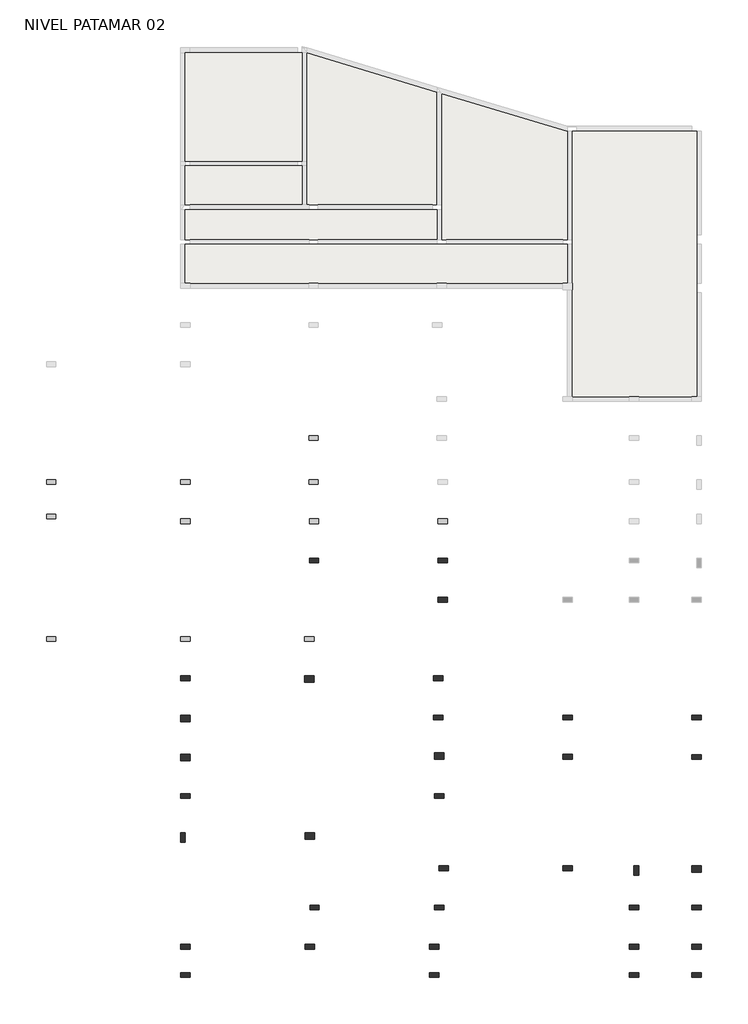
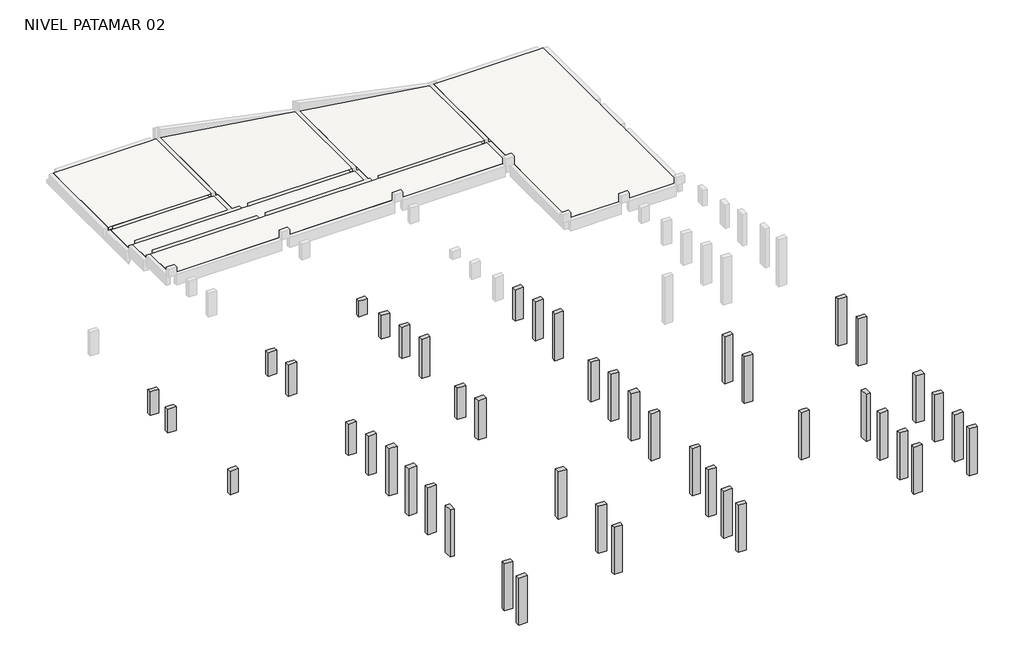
# One storey, part 1 of 2: 46 columns, 7 slabs.
"""IFC4 building model written with IfcOpenShell, lengths in millimetres."""

from ifc_helpers import new_model, si_unit, origin, place, context, project, spatial, faceted_brep, transform, mapped, element, save
from components import tqs_pilar_retangular_15_0x30_0_16e8f05b, tqs_pilar_retangular_20_0x30_0_631425d6

model = new_model("IFC4")

# Units and contexts
model_context = context("Model", 3, world=origin())
ifc_project = project(units=[si_unit("LENGTHUNIT", "METRE", prefix="MILLI")], contexts=[model_context])

# Site, building, storey
site = spatial("IfcSite", under=ifc_project)
building = spatial("IfcBuilding", under=site)
storey = spatial("IfcBuildingStorey", under=building, Name="NIVEL PATAMAR 02", Elevation=900.0)

# Columns
placement = place(None, origin())
element("IfcColumn", 1, ObjectType="TQS - Pilar retangular : 15,0x30,0", at=placement, inside=storey, context=model_context, shape_type="Brep", body=[
    faceted_brep([(46210.0, -5330.0, 900.0), (45910.0, -5330.0, 900.0), (45910.0, -5180.0, 900.0), (46210.0, -5180.0, 900.0), (46210.0, -5330.0, 2700.0), (45910.0, -5330.0, 2700.0), (46210.0, -5330.0, 2600.0), (45910.0, -5180.0, 2700.0), (46210.0, -5180.0, 2700.0), (46210.0, -5180.0, 2600.0)], [[[0, 1, 2, 3]], [[4, 5, 1, 0, 6]], [[5, 7, 2, 1]], [[7, 8, 9, 3, 2]], [[8, 4, 6, 0, 3, 9]], [[4, 8, 7, 5]]]),
])
element("IfcColumn", 2, ObjectType="TQS - Pilar retangular : 15,0x30,0", at=placement, inside=storey, context=model_context, shape_type="Brep", body=[
    faceted_brep([(46210.0, -8880.0, 900.0), (45910.0, -8880.0, 900.0), (45910.0, -8730.0, 900.0), (46210.0, -8730.0, 900.0), (46210.0, -8880.0, 2700.0), (45910.0, -8880.0, 2700.0), (45910.0, -8730.0, 2700.0), (46210.0, -8730.0, 2700.0), (46210.0, -8730.0, 2600.0)], [[[0, 1, 2, 3]], [[4, 5, 1, 0]], [[5, 6, 2, 1]], [[6, 7, 8, 3, 2]], [[7, 4, 0, 3, 8]], [[4, 7, 6, 5]]]),
])
element("IfcColumn", 3, ObjectType="TQS - Pilar retangular : 15,0x30,0", at=placement, inside=storey, context=model_context, shape_type="Brep", body=[
    faceted_brep([(50300.0, -4080.0, 900.0), (50000.0, -4080.0, 900.0), (50000.0, -3930.0, 900.0), (50300.0, -3930.0, 900.0), (50300.0, -4080.0, 2700.0), (50150.0, -4080.0, 2700.0), (50000.0, -4080.0, 2700.0), (50000.0, -4080.0, 2300.0), (50300.0, -4080.0, 2300.0), (50000.0, -3930.0, 2700.0), (50000.0, -3930.0, 2300.0), (50150.0, -3930.0, 2700.0), (50300.0, -3930.0, 2700.0), (50300.0, -3930.0, 2300.0)], [[[0, 1, 2, 3]], [[4, 5, 6, 7, 1, 0, 8]], [[6, 9, 10, 2, 1, 7]], [[9, 11, 12, 13, 3, 2, 10]], [[12, 4, 8, 0, 3, 13]], [[4, 12, 11, 9, 6, 5]]]),
])
element("IfcColumn", 4, ObjectType="TQS - Pilar retangular : 15,0x30,0", at=placement, inside=storey, context=model_context, shape_type="Brep", body=[
    faceted_brep([(50300.0, -7630.0, 900.0), (50000.0, -7630.0, 900.0), (50000.0, -7480.0, 900.0), (50300.0, -7480.0, 900.0), (50300.0, -7630.0, 2700.0), (50000.0, -7630.0, 2700.0), (50000.0, -7630.0, 2600.0), (50300.0, -7630.0, 2600.0), (50000.0, -7480.0, 2700.0), (50000.0, -7480.0, 2600.0), (50150.0, -7480.0, 2700.0), (50300.0, -7480.0, 2700.0), (50300.0, -7480.0, 2600.0), (50300.0, -7480.0, 2300.0)], [[[0, 1, 2, 3]], [[4, 5, 6, 1, 0, 7]], [[5, 8, 9, 2, 1, 6]], [[8, 10, 11, 12, 13, 3, 2, 9]], [[11, 4, 7, 0, 3, 13, 12]], [[4, 11, 10, 8, 5]]]),
])
element("IfcColumn", 5, ObjectType="TQS - Pilar retangular : 15,0x30,0", at=placement, inside=storey, context=model_context, shape_type="Brep", body=[
    faceted_brep([(52270.0, -7780.0, 900.0), (52270.0, -7480.0, 900.0), (52420.0, -7480.0, 900.0), (52420.0, -7780.0, 900.0), (52270.0, -7780.0, 2700.0), (52270.0, -7480.0, 2700.0), (52270.0, -7480.0, 2600.0), (52270.0, -7780.0, 2600.0), (52420.0, -7480.0, 2700.0), (52420.0, -7480.0, 2600.0), (52420.0, -7780.0, 2700.0), (52420.0, -7780.0, 2600.0)], [[[0, 1, 2, 3]], [[4, 5, 6, 1, 0, 7]], [[5, 8, 9, 2, 1, 6]], [[8, 10, 11, 3, 2, 9]], [[10, 4, 7, 0, 3, 11]], [[4, 10, 8, 5]]]),
])
element("IfcColumn", 6, ObjectType="TQS - Pilar retangular : 15,0x30,0", at=placement, inside=storey, context=model_context, shape_type="Brep", body=[
    faceted_brep([(45880.0, -2680.0, 900.0), (46180.0, -2680.0, 900.0), (46180.0, -2830.0, 900.0), (45880.0, -2830.0, 900.0), (45880.0, -2680.0, 2700.0), (46180.0, -2680.0, 2700.0), (46180.0, -2680.0, 2400.0), (46180.0, -2680.0, 2300.0), (46180.0, -2680.0, 2000.0), (45880.0, -2680.0, 2300.0), (46180.0, -2830.0, 2700.0), (46180.0, -2830.0, 2300.0), (45880.0, -2830.0, 2700.0), (45880.0, -2830.0, 2300.0)], [[[0, 1, 2, 3]], [[4, 5, 6, 7, 8, 1, 0, 9]], [[5, 10, 11, 2, 1, 8, 7, 6]], [[10, 12, 13, 3, 2, 11]], [[12, 4, 9, 0, 3, 13]], [[4, 12, 10, 5]]]),
])
element("IfcColumn", 7, ObjectType="TQS - Pilar retangular : 15,0x30,0", at=placement, inside=storey, context=model_context, shape_type="Brep", body=[
    faceted_brep([(50000.0, -2680.0, 900.0), (50300.0, -2680.0, 900.0), (50300.0, -2830.0, 900.0), (50000.0, -2830.0, 900.0), (50000.0, -2680.0, 2700.0), (50150.0, -2680.0, 2700.0), (50300.0, -2680.0, 2700.0), (50300.0, -2680.0, 2300.0), (50000.0, -2680.0, 2300.0), (50300.0, -2830.0, 2700.0), (50300.0, -2830.0, 2300.0), (50150.0, -2830.0, 2700.0), (50000.0, -2830.0, 2700.0), (50000.0, -2830.0, 2300.0)], [[[0, 1, 2, 3]], [[4, 5, 6, 7, 1, 0, 8]], [[6, 9, 10, 2, 1, 7]], [[9, 11, 12, 13, 3, 2, 10]], [[12, 4, 8, 0, 3, 13]], [[4, 12, 11, 9, 6, 5]]]),
])
element("IfcColumn", 8, ObjectType="TQS - Pilar retangular : 15,0x30,0", at=placement, inside=storey, context=model_context, shape_type="Brep", body=[
    faceted_brep([(45880.0, -1430.0, 900.0), (46180.0, -1430.0, 900.0), (46180.0, -1580.0, 900.0), (45880.0, -1580.0, 900.0), (45880.0, -1430.0, 2400.0), (46030.0, -1430.0, 2400.0), (46180.0, -1430.0, 2400.0), (46180.0, -1430.0, 2000.0), (45880.0, -1430.0, 2000.0), (46180.0, -1580.0, 2400.0), (46180.0, -1580.0, 2000.0), (46030.0, -1580.0, 2400.0), (45880.0, -1580.0, 2400.0), (45880.0, -1580.0, 2000.0)], [[[0, 1, 2, 3]], [[4, 5, 6, 7, 1, 0, 8]], [[6, 9, 10, 2, 1, 7]], [[9, 11, 12, 13, 3, 2, 10]], [[12, 4, 8, 0, 3, 13]], [[4, 12, 11, 9, 6, 5]]]),
])
element("IfcColumn", 9, ObjectType="TQS - Pilar retangular : 15,0x30,0", at=placement, inside=storey, context=model_context, shape_type="Brep", body=[
    faceted_brep([(37820.0, -1430.0, 900.0), (38120.0, -1430.0, 900.0), (38120.0, -1580.0, 900.0), (37820.0, -1580.0, 900.0), (37820.0, -1430.0, 2400.0), (38120.0, -1430.0, 2400.0), (38120.0, -1430.0, 2000.0), (37820.0, -1430.0, 1700.0), (37820.0, -1430.0, 2100.0), (38120.0, -1580.0, 2400.0), (38120.0, -1580.0, 2000.0), (37970.0, -1580.0, 2400.0), (37820.0, -1580.0, 2400.0), (37820.0, -1580.0, 2000.0)], [[[0, 1, 2, 3]], [[4, 5, 6, 1, 0, 7, 8]], [[5, 9, 10, 2, 1, 6]], [[9, 11, 12, 13, 3, 2, 10]], [[12, 4, 8, 7, 0, 3, 13]], [[4, 12, 11, 9, 5]]]),
])
element("IfcColumn", 10, ObjectType="TQS - Pilar retangular : 15,0x30,0", at=placement, inside=storey, context=model_context, shape_type="Brep", body=[
    faceted_brep([(46030.0, 2320.0, 900.0), (46330.0, 2320.0, 900.0), (46330.0, 2170.0, 900.0), (46030.0, 2170.0, 900.0), (46030.0, 2320.0, 2400.0), (46330.0, 2320.0, 2400.0), (46330.0, 2320.0, 2000.0), (46030.0, 2320.0, 2000.0), (46330.0, 2170.0, 2400.0), (46330.0, 2170.0, 2000.0), (46180.0, 2170.0, 2400.0), (46030.0, 2170.0, 2400.0), (46030.0, 2170.0, 2000.0)], [[[0, 1, 2, 3]], [[4, 5, 6, 1, 0, 7]], [[5, 8, 9, 2, 1, 6]], [[8, 10, 11, 12, 3, 2, 9]], [[11, 4, 7, 0, 3, 12]], [[4, 11, 10, 8, 5]]]),
])
element("IfcColumn", 11, ObjectType="TQS - Pilar retangular : 15,0x30,0", at=placement, inside=storey, context=model_context, shape_type="Brep", body=[
    faceted_brep([(46030.0, 1070.0, 900.0), (46330.0, 1070.0, 900.0), (46330.0, 920.0, 900.0), (46030.0, 920.0, 900.0), (46030.0, 1070.0, 2700.0), (46330.0, 1070.0, 2700.0), (46330.0, 1070.0, 2300.0), (46030.0, 1070.0, 2000.0), (46030.0, 1070.0, 2400.0), (46330.0, 920.0, 2700.0), (46330.0, 920.0, 2300.0), (46030.0, 920.0, 2700.0), (46030.0, 920.0, 2400.0), (46030.0, 920.0, 2000.0)], [[[0, 1, 2, 3]], [[4, 5, 6, 1, 0, 7, 8]], [[5, 9, 10, 2, 1, 6]], [[9, 11, 12, 13, 3, 2, 10]], [[11, 4, 8, 7, 0, 3, 13, 12]], [[4, 11, 9, 5]]]),
])
element("IfcColumn", 12, ObjectType="TQS - Pilar retangular : 15,0x30,0", at=placement, inside=storey, context=model_context, shape_type="Brep", body=[
    faceted_brep([(37820.0, -180.0, 900.0), (38120.0, -180.0, 900.0), (38120.0, -330.0, 900.0), (37820.0, -330.0, 900.0), (37820.0, -180.0, 2100.0), (38120.0, -180.0, 2100.0), (38120.0, -180.0, 1700.0), (37820.0, -180.0, 1400.0), (37820.0, -180.0, 1800.0), (38120.0, -330.0, 2100.0), (38120.0, -330.0, 1700.0), (37970.0, -330.0, 2100.0), (37820.0, -330.0, 2100.0), (37820.0, -330.0, 1700.0)], [[[0, 1, 2, 3]], [[4, 5, 6, 1, 0, 7, 8]], [[5, 9, 10, 2, 1, 6]], [[9, 11, 12, 13, 3, 2, 10]], [[12, 4, 8, 7, 0, 3, 13]], [[4, 12, 11, 9, 5]]]),
])
element("IfcColumn", 13, ObjectType="TQS - Pilar retangular : 15,0x30,0", at=placement, inside=storey, context=model_context, shape_type="Brep", body=[
    faceted_brep([(41775.0, -180.0, 900.0), (42075.0, -180.0, 900.0), (42075.0, -330.0, 900.0), (41775.0, -330.0, 900.0), (41775.0, -180.0, 2100.0), (41925.0, -180.0, 2100.0), (42075.0, -180.0, 2100.0), (42075.0, -180.0, 1700.0), (41775.0, -180.0, 1700.0), (42075.0, -330.0, 2100.0), (42075.0, -330.0, 1700.0), (41925.0, -330.0, 2100.0), (41775.0, -330.0, 2100.0), (41775.0, -330.0, 1700.0)], [[[0, 1, 2, 3]], [[4, 5, 6, 7, 1, 0, 8]], [[6, 9, 10, 2, 1, 7]], [[9, 11, 12, 13, 3, 2, 10]], [[12, 4, 8, 0, 3, 13]], [[4, 12, 11, 9, 6, 5]]]),
])
element("IfcColumn", 14, ObjectType="TQS - Pilar retangular : 15,0x30,0", at=placement, inside=storey, context=model_context, shape_type="Brep", body=[
    faceted_brep([(41925.0, 2320.0, 900.0), (42225.0, 2320.0, 900.0), (42225.0, 2170.0, 900.0), (41925.0, 2170.0, 900.0), (41925.0, 2320.0, 2400.0), (42225.0, 2320.0, 2400.0), (42225.0, 2320.0, 2000.0), (41925.0, 2320.0, 1700.0), (41925.0, 2320.0, 2100.0), (42225.0, 2170.0, 2400.0), (42225.0, 2170.0, 2000.0), (41925.0, 2170.0, 2400.0), (41925.0, 2170.0, 2100.0), (41925.0, 2170.0, 1700.0)], [[[0, 1, 2, 3]], [[4, 5, 6, 1, 0, 7, 8]], [[5, 9, 10, 2, 1, 6]], [[9, 11, 12, 13, 3, 2, 10]], [[11, 4, 8, 7, 0, 3, 13, 12]], [[4, 11, 9, 5]]]),
])
element("IfcColumn", 15, ObjectType="TQS - Pilar retangular : 15,0x30,0", at=placement, inside=storey, context=model_context, shape_type="Brep", body=[
    faceted_brep([(41925.0, 3570.0, 900.0), (42225.0, 3570.0, 900.0), (42225.0, 3420.0, 900.0), (41925.0, 3420.0, 900.0), (41925.0, 3570.0, 2100.0), (42225.0, 3570.0, 2100.0), (42225.0, 3570.0, 1700.0), (41925.0, 3570.0, 1700.0), (42225.0, 3420.0, 2100.0), (42225.0, 3420.0, 1700.0), (42075.0, 3420.0, 2100.0), (41925.0, 3420.0, 2100.0), (41925.0, 3420.0, 1700.0)], [[[0, 1, 2, 3]], [[4, 5, 6, 1, 0, 7]], [[5, 8, 9, 2, 1, 6]], [[8, 10, 11, 12, 3, 2, 9]], [[11, 4, 7, 0, 3, 12]], [[4, 11, 10, 8, 5]]]),
])
element("IfcColumn", 16, ObjectType="TQS - Pilar retangular : 15,0x30,0", at=placement, inside=storey, context=model_context, shape_type="Brep", body=[
    faceted_brep([(37820.0, 3570.0, 900.0), (38120.0, 3570.0, 900.0), (38120.0, 3420.0, 900.0), (37820.0, 3420.0, 900.0), (37820.0, 3570.0, 2100.0), (38120.0, 3570.0, 2100.0), (38120.0, 3570.0, 1700.0), (37820.0, 3570.0, 1400.0), (37820.0, 3570.0, 1800.0), (38120.0, 3420.0, 2100.0), (38120.0, 3420.0, 1700.0), (37820.0, 3420.0, 2100.0), (37820.0, 3420.0, 1800.0), (37820.0, 3420.0, 1400.0)], [[[0, 1, 2, 3]], [[4, 5, 6, 1, 0, 7, 8]], [[5, 9, 10, 2, 1, 6]], [[9, 11, 12, 13, 3, 2, 10]], [[11, 4, 8, 7, 0, 3, 13, 12]], [[4, 11, 9, 5]]]),
])
element("IfcColumn", 17, ObjectType="TQS - Pilar retangular : 15,0x30,0", at=placement, inside=storey, context=model_context, shape_type="Brep", body=[
    faceted_brep([(46030.0, 3570.0, 900.0), (46330.0, 3570.0, 900.0), (46330.0, 3420.0, 900.0), (46030.0, 3420.0, 900.0), (46030.0, 3570.0, 2100.0), (46330.0, 3570.0, 2100.0), (46330.0, 3570.0, 1700.0), (46030.0, 3570.0, 1700.0), (46330.0, 3420.0, 2100.0), (46330.0, 3420.0, 1700.0), (46030.0, 3420.0, 2100.0), (46030.0, 3420.0, 1700.0)], [[[0, 1, 2, 3]], [[4, 5, 6, 1, 0, 7]], [[5, 8, 9, 2, 1, 6]], [[8, 10, 11, 3, 2, 9]], [[10, 4, 7, 0, 3, 11]], [[4, 10, 8, 5]]]),
])
element("IfcColumn", 18, ObjectType="TQS - Pilar retangular : 15,0x30,0", at=placement, inside=storey, context=model_context, shape_type="Brep", body=[
    faceted_brep([(37820.0, 4820.0, 900.0), (38120.0, 4820.0, 900.0), (38120.0, 4670.0, 900.0), (37820.0, 4670.0, 900.0), (37820.0, 4820.0, 1800.0), (37970.0, 4820.0, 1800.0), (38120.0, 4820.0, 1800.0), (38120.0, 4820.0, 1400.0), (37820.0, 4820.0, 1400.0), (38120.0, 4670.0, 1800.0), (38120.0, 4670.0, 1400.0), (37970.0, 4670.0, 1800.0), (37820.0, 4670.0, 1800.0), (37820.0, 4670.0, 1400.0)], [[[0, 1, 2, 3]], [[4, 5, 6, 7, 1, 0, 8]], [[6, 9, 10, 2, 1, 7]], [[9, 11, 12, 13, 3, 2, 10]], [[12, 4, 8, 0, 3, 13]], [[4, 12, 11, 9, 6, 5]]]),
])
element("IfcColumn", 19, ObjectType="TQS - Pilar retangular : 15,0x30,0", at=placement, inside=storey, context=model_context, shape_type="Brep", body=[
    faceted_brep([(41910.0, 4820.0, 900.0), (42210.0, 4820.0, 900.0), (42210.0, 4670.0, 900.0), (41910.0, 4670.0, 900.0), (41910.0, 4820.0, 1800.0), (42210.0, 4820.0, 1800.0), (42210.0, 4820.0, 1400.0), (41910.0, 4820.0, 1100.0), (41910.0, 4820.0, 1400.0), (41910.0, 4820.0, 1500.0), (42210.0, 4670.0, 1800.0), (42210.0, 4670.0, 1400.0), (41910.0, 4670.0, 1800.0), (41910.0, 4670.0, 1400.0)], [[[0, 1, 2, 3]], [[4, 5, 6, 1, 0, 7, 8, 9]], [[5, 10, 11, 2, 1, 6]], [[10, 12, 13, 3, 2, 11]], [[12, 4, 9, 8, 7, 0, 3, 13]], [[4, 12, 10, 5]]]),
])
element("IfcColumn", 20, ObjectType="TQS - Pilar retangular : 15,0x30,0", at=placement, inside=storey, context=model_context, shape_type="Brep", body=[
    faceted_brep([(41910.0, 6220.0, 900.0), (42210.0, 6220.0, 900.0), (42210.0, 6070.0, 900.0), (41910.0, 6070.0, 900.0), (41910.0, 6220.0, 1500.0), (42060.0, 6220.0, 1500.0), (42210.0, 6220.0, 1500.0), (42210.0, 6220.0, 1100.0), (41910.0, 6220.0, 1100.0), (42210.0, 6070.0, 1500.0), (42210.0, 6070.0, 1100.0), (42060.0, 6070.0, 1500.0), (41910.0, 6070.0, 1500.0), (41910.0, 6070.0, 1100.0)], [[[0, 1, 2, 3]], [[4, 5, 6, 7, 1, 0, 8]], [[6, 9, 10, 2, 1, 7]], [[9, 11, 12, 13, 3, 2, 10]], [[12, 4, 8, 0, 3, 13]], [[4, 12, 11, 9, 6, 5]]]),
])
element("IfcColumn", 21, ObjectType="TQS - Pilar retangular : 15,0x30,0", at=placement, inside=storey, context=model_context, shape_type="Brep", body=[
    faceted_brep([(52420.0, -8880.0, 900.0), (52120.0, -8880.0, 900.0), (52120.0, -8730.0, 900.0), (52420.0, -8730.0, 900.0), (52420.0, -8880.0, 2700.0), (52120.0, -8880.0, 2700.0), (52120.0, -8730.0, 2700.0), (52420.0, -8730.0, 2700.0), (52420.0, -8730.0, 2600.0)], [[[0, 1, 2, 3]], [[4, 5, 1, 0]], [[5, 6, 2, 1]], [[6, 7, 8, 3, 2]], [[7, 4, 0, 3, 8]], [[4, 7, 6, 5]]]),
])
element("IfcColumn", 22, ObjectType="TQS - Pilar retangular : 15,0x30,0", at=placement, inside=storey, context=model_context, shape_type="Brep", body=[
    faceted_brep([(33550.0, -180.0, 900.0), (33850.0, -180.0, 900.0), (33850.0, -330.0, 900.0), (33550.0, -330.0, 900.0), (33550.0, -180.0, 1800.0), (33850.0, -180.0, 1800.0), (33550.0, -180.0, 1400.0), (33850.0, -330.0, 1800.0), (33550.0, -330.0, 1800.0)], [[[0, 1, 2, 3]], [[4, 5, 1, 0, 6]], [[5, 7, 2, 1]], [[7, 8, 3, 2]], [[8, 4, 6, 0, 3]], [[4, 8, 7, 5]]]),
])
element("IfcColumn", 23, ObjectType="TQS - Pilar retangular : 15,0x30,0", at=placement, inside=storey, context=model_context, shape_type="Brep", body=[
    faceted_brep([(33550.0, 4820.0, 900.0), (33850.0, 4820.0, 900.0), (33850.0, 4670.0, 900.0), (33550.0, 4670.0, 900.0), (33550.0, 4820.0, 1400.0), (33550.0, 4820.0, 1800.0), (33700.0, 4820.0, 1800.0), (33850.0, 4820.0, 1800.0), (33850.0, 4820.0, 1700.0), (33850.0, 4670.0, 1800.0), (33850.0, 4670.0, 1700.0), (33700.0, 4670.0, 1800.0), (33550.0, 4670.0, 1800.0), (33550.0, 4670.0, 1400.0)], [[[0, 1, 2, 3]], [[1, 0, 4, 5, 6, 7, 8]], [[2, 1, 8, 7, 9, 10]], [[3, 2, 10, 9, 11, 12, 13]], [[0, 3, 13, 12, 5, 4]], [[9, 7, 6, 5, 12, 11]]]),
])
element("IfcColumn", 24, ObjectType="TQS - Pilar retangular : 15,0x30,0", at=placement, inside=storey, context=model_context, shape_type="Brep", body=[
    faceted_brep([(33850.0, 3570.0, 900.0), (33550.0, 3570.0, 900.0), (33550.0, 3720.0, 900.0), (33850.0, 3720.0, 900.0), (33850.0, 3570.0, 1700.0), (33850.0, 3570.0, 1800.0), (33700.0, 3570.0, 1800.0), (33550.0, 3570.0, 1800.0), (33550.0, 3570.0, 1400.0), (33550.0, 3720.0, 1800.0), (33550.0, 3720.0, 1400.0), (33700.0, 3720.0, 1800.0), (33850.0, 3720.0, 1800.0), (33850.0, 3720.0, 1700.0)], [[[0, 1, 2, 3]], [[1, 0, 4, 5, 6, 7, 8]], [[2, 1, 8, 7, 9, 10]], [[3, 2, 10, 9, 11, 12, 13]], [[0, 3, 13, 12, 5, 4]], [[9, 7, 6, 5, 12, 11]]]),
])
element("IfcColumn", 25, ObjectType="TQS - Pilar retangular : 15,0x30,0", at=placement, inside=storey, context=model_context, shape_type="Brep", body=[
    faceted_brep([(54420.0, -8880.0, 900.0), (54120.0, -8880.0, 900.0), (54120.0, -8730.0, 900.0), (54420.0, -8730.0, 900.0), (54420.0, -8880.0, 2700.0), (54120.0, -8880.0, 2700.0), (54120.0, -8730.0, 2700.0), (54420.0, -8730.0, 2700.0), (54420.0, -8730.0, 2600.0)], [[[0, 1, 2, 3]], [[4, 5, 1, 0]], [[5, 6, 2, 1]], [[6, 7, 8, 3, 2]], [[7, 4, 0, 3, 8]], [[4, 7, 6, 5]]]),
])
element("IfcColumn", 26, ObjectType="TQS - Pilar retangular : 15,0x30,0", at=placement, inside=storey, context=model_context, shape_type="Brep", body=[
    faceted_brep([(46360.0, -7630.0, 900.0), (46060.0, -7630.0, 900.0), (46060.0, -7480.0, 900.0), (46360.0, -7480.0, 900.0), (46360.0, -7630.0, 2700.0), (46060.0, -7630.0, 2700.0), (46060.0, -7630.0, 2600.0), (46360.0, -7630.0, 2600.0), (46060.0, -7480.0, 2700.0), (46060.0, -7480.0, 2600.0), (46360.0, -7480.0, 2700.0), (46360.0, -7480.0, 2600.0)], [[[0, 1, 2, 3]], [[4, 5, 6, 1, 0, 7]], [[5, 8, 9, 2, 1, 6]], [[8, 10, 11, 3, 2, 9]], [[10, 4, 7, 0, 3, 11]], [[4, 10, 8, 5]]]),
])
element("IfcColumn", 27, ObjectType="TQS - Pilar retangular : 15,0x30,0", at=placement, inside=storey, context=model_context, shape_type="Brep", body=[
    faceted_brep([(54420.0, -4088.8177552, 900.0), (54120.0, -4088.8177552, 900.0), (54120.0, -3938.8177552, 900.0), (54420.0, -3938.8177552, 900.0), (54420.0, -4088.8177552, 2300.0), (54420.0, -4088.8177552, 2700.0), (54270.0, -4088.8177552, 2700.0), (54120.0, -4088.8177552, 2700.0), (54120.0, -4088.8177552, 2600.0), (54120.0, -3938.8177552, 2700.0), (54120.0, -3938.8177552, 2600.0), (54270.0, -3938.8177552, 2700.0), (54420.0, -3938.8177552, 2700.0), (54420.0, -3938.8177552, 2300.0)], [[[0, 1, 2, 3]], [[1, 0, 4, 5, 6, 7, 8]], [[2, 1, 8, 7, 9, 10]], [[3, 2, 10, 9, 11, 12, 13]], [[0, 3, 13, 12, 5, 4]], [[9, 7, 6, 5, 12, 11]]]),
])
element("IfcColumn", 28, ObjectType="TQS - Pilar retangular : 15,0x30,0", at=placement, inside=storey, context=model_context, shape_type="Brep", body=[
    faceted_brep([(54420.0, -2830.0, 900.0), (54120.0, -2830.0, 900.0), (54120.0, -2680.0, 900.0), (54420.0, -2680.0, 900.0), (54420.0, -2830.0, 2300.0), (54420.0, -2830.0, 2700.0), (54270.0, -2830.0, 2700.0), (54120.0, -2830.0, 2700.0), (54120.0, -2830.0, 2600.0), (54120.0, -2680.0, 2700.0), (54120.0, -2680.0, 2600.0), (54270.0, -2680.0, 2700.0), (54420.0, -2680.0, 2700.0), (54420.0, -2680.0, 2300.0)], [[[0, 1, 2, 3]], [[1, 0, 4, 5, 6, 7, 8]], [[2, 1, 8, 7, 9, 10]], [[3, 2, 10, 9, 11, 12, 13]], [[0, 3, 13, 12, 5, 4]], [[9, 7, 6, 5, 12, 11]]]),
])
element("IfcColumn", 29, ObjectType="TQS - Pilar retangular : 15,0x30,0", at=placement, inside=storey, context=model_context, shape_type="Brep", body=[
    faceted_brep([(37820.0, -5180.0, 900.0), (38120.0, -5180.0, 900.0), (38120.0, -5330.0, 900.0), (37820.0, -5330.0, 900.0), (37820.0, -5180.0, 2700.0), (38120.0, -5180.0, 2700.0), (37820.0, -5180.0, 2600.0), (38120.0, -5330.0, 2700.0), (37820.0, -5330.0, 2700.0)], [[[0, 1, 2, 3]], [[4, 5, 1, 0, 6]], [[5, 7, 2, 1]], [[7, 8, 3, 2]], [[8, 4, 6, 0, 3]], [[4, 8, 7, 5]]]),
])
tqs_pilar_retangular_15_0x30_0_shape = tqs_pilar_retangular_15_0x30_0_16e8f05b(model_context)
element("IfcColumn", 30, ObjectType="TQS - Pilar retangular : 15,0x30,0", at=placement, inside=storey, context=model_context, shape_type="MappedRepresentation", body=[
    mapped(tqs_pilar_retangular_15_0x30_0_shape, transform((37970.0, -10955.0, 0.0), x_axis=(0.0, -1.0, 0.0), y_axis=(1.0, 0.0, 0.0), z_axis=(0.0, 0.0, 1.0))),
])
element("IfcColumn", 31, ObjectType="TQS - Pilar retangular : 15,0x30,0", at=placement, inside=storey, context=model_context, shape_type="MappedRepresentation", body=[
    mapped(tqs_pilar_retangular_15_0x30_0_shape, transform((37970.0, -10055.0, 0.0), x_axis=(0.0, -1.0, 0.0), y_axis=(1.0, 0.0, 0.0), z_axis=(0.0, 0.0, 1.0))),
])
element("IfcColumn", 32, ObjectType="TQS - Pilar retangular : 15,0x30,0", at=placement, inside=storey, context=model_context, shape_type="MappedRepresentation", body=[
    mapped(tqs_pilar_retangular_15_0x30_0_shape, transform((37895.0, -6580.0, 0.0), x_axis=(1.0, 0.0, 0.0), y_axis=(0.0, 1.0, 0.0), z_axis=(0.0, 0.0, 1.0))),
])
element("IfcColumn", 33, ObjectType="TQS - Pilar retangular : 15,0x30,0", at=placement, inside=storey, context=model_context, shape_type="MappedRepresentation", body=[
    mapped(tqs_pilar_retangular_15_0x30_0_shape, transform((41940.0, -10055.0, 0.0), x_axis=(0.0, -1.0, 0.0), y_axis=(1.0, 0.0, 0.0), z_axis=(0.0, 0.0, 1.0))),
])
element("IfcColumn", 34, ObjectType="TQS - Pilar retangular : 15,0x30,0", at=placement, inside=storey, context=model_context, shape_type="MappedRepresentation", body=[
    mapped(tqs_pilar_retangular_15_0x30_0_shape, transform((45910.0, -10055.0, 0.0), x_axis=(0.0, -1.0, 0.0), y_axis=(1.0, 0.0, 0.0), z_axis=(0.0, 0.0, 1.0))),
])
element("IfcColumn", 35, ObjectType="TQS - Pilar retangular : 15,0x30,0", at=placement, inside=storey, context=model_context, shape_type="MappedRepresentation", body=[
    mapped(tqs_pilar_retangular_15_0x30_0_shape, transform((45910.0, -10955.0, 0.0), x_axis=(0.0, -1.0, 0.0), y_axis=(1.0, 0.0, 0.0), z_axis=(0.0, 0.0, 1.0))),
])
element("IfcColumn", 36, ObjectType="TQS - Pilar retangular : 15,0x30,0", at=placement, inside=storey, context=model_context, shape_type="MappedRepresentation", body=[
    mapped(tqs_pilar_retangular_15_0x30_0_shape, transform((52270.0, -10055.0, 0.0), x_axis=(0.0, -1.0, 0.0), y_axis=(1.0, 0.0, 0.0), z_axis=(0.0, 0.0, 1.0))),
])
element("IfcColumn", 37, ObjectType="TQS - Pilar retangular : 15,0x30,0", at=placement, inside=storey, context=model_context, shape_type="MappedRepresentation", body=[
    mapped(tqs_pilar_retangular_15_0x30_0_shape, transform((52270.0, -10955.0, 0.0), x_axis=(0.0, -1.0, 0.0), y_axis=(1.0, 0.0, 0.0), z_axis=(0.0, 0.0, 1.0))),
])
element("IfcColumn", 38, ObjectType="TQS - Pilar retangular : 15,0x30,0", at=placement, inside=storey, context=model_context, shape_type="MappedRepresentation", body=[
    mapped(tqs_pilar_retangular_15_0x30_0_shape, transform((54270.0, -10055.0, 0.0), x_axis=(0.0, -1.0, 0.0), y_axis=(1.0, 0.0, 0.0), z_axis=(0.0, 0.0, 1.0))),
])
element("IfcColumn", 39, ObjectType="TQS - Pilar retangular : 15,0x30,0", at=placement, inside=storey, context=model_context, shape_type="MappedRepresentation", body=[
    mapped(tqs_pilar_retangular_15_0x30_0_shape, transform((54270.0, -10955.0, 0.0), x_axis=(0.0, -1.0, 0.0), y_axis=(1.0, 0.0, 0.0), z_axis=(0.0, 0.0, 1.0))),
])
element("IfcColumn", 40, ObjectType="TQS - Pilar retangular : 15,0x30,0", at=placement, inside=storey, context=model_context, shape_type="MappedRepresentation", body=[
    mapped(tqs_pilar_retangular_15_0x30_0_shape, transform((42090.0, -8805.0, 0.0), x_axis=(0.0, -1.0, 0.0), y_axis=(1.0, 0.0, 0.0), z_axis=(0.0, 0.0, 1.0))),
])
element("IfcColumn", 41, ObjectType="TQS - Pilar retangular : 20,0x30,0", at=placement, inside=storey, context=model_context, shape_type="Brep", body=[
    faceted_brep([(45910.0, -3880.0, 900.0), (46210.0, -3880.0, 900.0), (46210.0, -4080.0, 900.0), (45910.0, -4080.0, 900.0), (45910.0, -3880.0, 2600.0), (45910.0, -3880.0, 2700.0), (46210.0, -3880.0, 2700.0), (46210.0, -3880.0, 2600.0), (46210.0, -3930.0, 2700.0), (46210.0, -4080.0, 2700.0), (46210.0, -4080.0, 2600.0), (46210.0, -4080.0, 2300.0), (45910.0, -4080.0, 2700.0), (45910.0, -4080.0, 2300.0), (45910.0, -3930.0, 2700.0)], [[[0, 1, 2, 3]], [[1, 0, 4, 5, 6, 7]], [[2, 1, 7, 6, 8, 9, 10, 11]], [[3, 2, 11, 10, 9, 12, 13]], [[0, 3, 13, 12, 14, 5, 4]], [[6, 5, 14, 12, 9, 8]]]),
])
element("IfcColumn", 42, ObjectType="TQS - Pilar retangular : 20,0x30,0", at=placement, inside=storey, context=model_context, shape_type="Brep", body=[
    faceted_brep([(37820.0, -3930.0, 900.0), (38120.0, -3930.0, 900.0), (38120.0, -4130.0, 900.0), (37820.0, -4130.0, 900.0), (37820.0, -3930.0, 2700.0), (37970.0, -3930.0, 2700.0), (38120.0, -3930.0, 2700.0), (38120.0, -3930.0, 2300.0), (37820.0, -3930.0, 2300.0), (38120.0, -4080.0, 2700.0), (38120.0, -4130.0, 2700.0), (37820.0, -4130.0, 2700.0), (37820.0, -4130.0, 2600.0)], [[[0, 1, 2, 3]], [[4, 5, 6, 7, 1, 0, 8]], [[6, 9, 10, 2, 1, 7]], [[10, 11, 12, 3, 2]], [[11, 4, 8, 0, 3, 12]], [[4, 11, 10, 9, 6, 5]]]),
])
element("IfcColumn", 43, ObjectType="TQS - Pilar retangular : 20,0x30,0", at=placement, inside=storey, context=model_context, shape_type="Brep", body=[
    faceted_brep([(37820.0, -2680.0, 900.0), (38120.0, -2680.0, 900.0), (38120.0, -2880.0, 900.0), (37820.0, -2880.0, 900.0), (37820.0, -2680.0, 2000.0), (37820.0, -2680.0, 2400.0), (37820.0, -2680.0, 2700.0), (38120.0, -2680.0, 2700.0), (38120.0, -2680.0, 2300.0), (38120.0, -2830.0, 2700.0), (38120.0, -2880.0, 2700.0), (38120.0, -2880.0, 2600.0), (37970.0, -2880.0, 2700.0), (37820.0, -2880.0, 2700.0), (37820.0, -2880.0, 2300.0)], [[[0, 1, 2, 3]], [[1, 0, 4, 5, 6, 7, 8]], [[2, 1, 8, 7, 9, 10, 11]], [[3, 2, 11, 10, 12, 13, 14]], [[0, 3, 14, 13, 6, 5, 4]], [[7, 6, 13, 12, 10, 9]]]),
])
element("IfcColumn", 44, ObjectType="TQS - Pilar retangular : 20,0x30,0", at=placement, inside=storey, context=model_context, shape_type="Brep", body=[
    faceted_brep([(41775.0, -1430.0, 900.0), (42075.0, -1430.0, 900.0), (42075.0, -1630.0, 900.0), (41775.0, -1630.0, 900.0), (41775.0, -1430.0, 2000.0), (41775.0, -1430.0, 2400.0), (42075.0, -1430.0, 2400.0), (42075.0, -1430.0, 2100.0), (42075.0, -1430.0, 2000.0), (42075.0, -1430.0, 1700.0), (42075.0, -1580.0, 2400.0), (42075.0, -1630.0, 2400.0), (42075.0, -1630.0, 2300.0), (41775.0, -1630.0, 2400.0), (41775.0, -1630.0, 2300.0), (41775.0, -1580.0, 2400.0)], [[[0, 1, 2, 3]], [[1, 0, 4, 5, 6, 7, 8, 9]], [[2, 1, 9, 8, 7, 6, 10, 11, 12]], [[3, 2, 12, 11, 13, 14]], [[0, 3, 14, 13, 15, 5, 4]], [[6, 5, 15, 13, 11, 10]]]),
])
element("IfcColumn", 45, ObjectType="TQS - Pilar retangular : 20,0x30,0", at=placement, inside=storey, context=model_context, shape_type="Brep", body=[
    faceted_brep([(54420.0, -7680.0, 900.0), (54120.0, -7680.0, 900.0), (54120.0, -7480.0, 900.0), (54420.0, -7480.0, 900.0), (54420.0, -7680.0, 2700.0), (54120.0, -7680.0, 2700.0), (54420.0, -7680.0, 2600.0), (54120.0, -7480.0, 2700.0), (54270.0, -7480.0, 2700.0), (54420.0, -7480.0, 2700.0), (54420.0, -7480.0, 2300.0)], [[[0, 1, 2, 3]], [[4, 5, 1, 0, 6]], [[5, 7, 2, 1]], [[7, 8, 9, 10, 3, 2]], [[9, 4, 6, 0, 3, 10]], [[4, 9, 8, 7, 5]]]),
])
tqs_pilar_retangular_20_0x30_0_shape = tqs_pilar_retangular_20_0x30_0_631425d6(model_context)
element("IfcColumn", 46, ObjectType="TQS - Pilar retangular : 20,0x30,0", at=placement, inside=storey, context=model_context, shape_type="MappedRepresentation", body=[
    mapped(tqs_pilar_retangular_20_0x30_0_shape, transform((41940.0, -6530.0, 0.0), x_axis=(0.0, -1.0, 0.0), y_axis=(1.0, 0.0, 0.0), z_axis=(0.0, 0.0, 1.0))),
])

# Slabs
element("IfcSlab", 47, ObjectType="h=10", at=placement, inside=storey, context=model_context, shape_type="Brep", body=[
    faceted_brep([(54270.0, 7470.0, 800.0), (50300.0, 7470.0, 800.0), (50300.0, 15913.3437467, 800.0), (50450.0, 15913.3437467, 800.0), (50450.0, 15920.0, 800.0), (54270.0, 15920.0, 800.0), (54270.0, 7470.0, 900.0), (54270.0, 10770.0, 900.0), (54270.0, 11070.0, 900.0), (54270.0, 12320.0, 900.0), (54270.0, 12620.0, 900.0), (54270.0, 15920.0, 900.0), (54120.0, 15920.0, 900.0), (50450.0, 15920.0, 900.0), (50450.0, 15913.3437467, 900.0), (50300.0, 15913.3437467, 900.0), (50300.0, 12470.0, 900.0), (50300.0, 12320.0, 900.0), (50300.0, 11070.0, 900.0), (50300.0, 10870.0, 900.0), (50300.0, 7470.0, 900.0), (52120.0, 7470.0, 900.0), (52420.0, 7470.0, 900.0), (54120.0, 7470.0, 900.0)], [[[0, 1, 2, 3, 4, 5]], [[6, 7, 8, 9, 10, 11, 12, 13, 14, 15, 16, 17, 18, 19, 20, 21, 22, 23]], [[1, 0, 6, 23, 22, 21, 20]], [[2, 1, 20, 19, 18, 17, 16, 15]], [[3, 2, 15, 14]], [[4, 3, 14, 13]], [[5, 4, 13, 12, 11]], [[0, 5, 11, 10, 9, 8, 7, 6]]]),
])
element("IfcSlab", 48, ObjectType="h=10", at=placement, inside=storey, context=model_context, shape_type="Brep", body=[
    faceted_brep([(50150.0, 12320.0, 800.0), (50150.0, 11070.0, 800.0), (37970.0, 11070.0, 800.0), (37970.0, 12320.0, 800.0), (50150.0, 12320.0, 900.0), (50000.0, 12320.0, 900.0), (46300.0, 12320.0, 900.0), (46000.0, 12320.0, 900.0), (42210.0, 12320.0, 900.0), (41910.0, 12320.0, 900.0), (38120.0, 12320.0, 900.0), (37970.0, 12320.0, 900.0), (37970.0, 11070.0, 900.0), (38120.0, 11070.0, 900.0), (41910.0, 11070.0, 900.0), (42210.0, 11070.0, 900.0), (46000.0, 11070.0, 900.0), (46300.0, 11070.0, 900.0), (50000.0, 11070.0, 900.0), (50150.0, 11070.0, 900.0)], [[[0, 1, 2, 3]], [[4, 5, 6, 7, 8, 9, 10, 11, 12, 13, 14, 15, 16, 17, 18, 19]], [[1, 0, 4, 19]], [[2, 1, 19, 18, 17, 16, 15, 14, 13, 12]], [[3, 2, 12, 11]], [[0, 3, 11, 10, 9, 8, 7, 6, 5, 4]]]),
])
element("IfcSlab", 49, ObjectType="h=10", at=placement, inside=storey, context=model_context, shape_type="Brep", body=[
    faceted_brep([(37970.0, 13420.0, 500.0), (46000.0, 13420.0, 500.0), (46000.0, 12320.0, 500.0), (42210.0, 12320.0, 500.0), (42210.0, 12470.0, 500.0), (41910.0, 12470.0, 500.0), (41910.0, 12320.0, 500.0), (38120.0, 12320.0, 500.0), (38120.0, 12470.0, 500.0), (37970.0, 12470.0, 500.0), (37970.0, 13420.0, 600.0), (37970.0, 12470.0, 600.0), (38120.0, 12470.0, 600.0), (38120.0, 12320.0, 600.0), (41910.0, 12320.0, 600.0), (41910.0, 12470.0, 600.0), (42210.0, 12470.0, 600.0), (42210.0, 12320.0, 600.0), (46000.0, 12320.0, 600.0), (46000.0, 12470.0, 600.0), (46000.0, 13420.0, 600.0), (45850.0, 13420.0, 600.0), (42210.0, 13420.0, 600.0), (41910.0, 13420.0, 600.0), (38120.0, 13420.0, 600.0)], [[[0, 1, 2, 3, 4, 5, 6, 7, 8, 9]], [[10, 11, 12, 13, 14, 15, 16, 17, 18, 19, 20, 21, 22, 23, 24]], [[1, 0, 10, 24, 23, 22, 21, 20]], [[2, 1, 20, 19, 18]], [[3, 2, 18, 17]], [[4, 3, 17, 16]], [[5, 4, 16, 15]], [[6, 5, 15, 14]], [[7, 6, 14, 13]], [[8, 7, 13, 12]], [[9, 8, 12, 11]], [[0, 9, 11, 10]]]),
])
element("IfcSlab", 50, ObjectType="h=10", at=placement, inside=storey, context=model_context, shape_type="Brep", body=[
    faceted_brep([(41700.0, 14820.0, 200.0), (41700.0, 13570.0, 200.0), (38120.0, 13570.0, 200.0), (37970.0, 13570.0, 200.0), (37970.0, 14820.0, 200.0), (41700.0, 14820.0, 300.0), (41550.0, 14820.0, 300.0), (38120.0, 14820.0, 300.0), (37970.0, 14820.0, 300.0), (37970.0, 13570.0, 300.0), (41700.0, 13570.0, 300.0)], [[[0, 1, 2, 3, 4]], [[5, 6, 7, 8, 9, 10]], [[1, 0, 5, 10]], [[3, 2, 1, 10, 9]], [[4, 3, 9, 8]], [[0, 4, 8, 7, 6, 5]]]),
])
element("IfcSlab", 51, ObjectType="h=10", at=placement, inside=storey, context=model_context, shape_type="Brep", body=[
    faceted_brep([(41700.0, 18420.0, 200.0), (41700.0, 14970.0, 200.0), (37970.0, 14970.0, 200.0), (37970.0, 18420.0, 200.0), (41700.0, 18420.0, 300.0), (41550.0, 18420.0, 300.0), (38120.0, 18420.0, 300.0), (37970.0, 18420.0, 300.0), (37970.0, 18407.3, 300.0), (37970.0, 14970.0, 300.0), (38120.0, 14970.0, 300.0), (41550.0, 14970.0, 300.0), (41700.0, 14970.0, 300.0)], [[[0, 1, 2, 3]], [[4, 5, 6, 7, 8, 9, 10, 11, 12]], [[1, 0, 4, 12]], [[2, 1, 12, 11, 10, 9]], [[3, 2, 9, 8, 7]], [[0, 3, 7, 6, 5, 4]]]),
])
element("IfcSlab", 52, ObjectType="h=10", at=placement, inside=storey, context=model_context, shape_type="Brep", body=[
    faceted_brep([(50150.0, 15913.3437467, 799.7191444), (50150.0, 12470.0, 799.7191444), (46150.0, 12470.0, 499.7191444), (46150.0, 17114.7553196, 499.7191444), (50150.0, 15913.3437467, 900.0), (46150.0, 17114.7553196, 600.0), (46150.0, 12470.0, 600.0), (50150.0, 12470.0, 900.0)], [[[0, 1, 2, 3]], [[4, 5, 6, 7]], [[1, 0, 4, 7]], [[2, 1, 7, 6]], [[3, 2, 6, 5]], [[0, 3, 5, 4]]]),
])
element("IfcSlab", 53, ObjectType="h=10", at=placement, inside=storey, context=model_context, shape_type="Brep", body=[
    faceted_brep([(46000.0, 17163.2464716, 499.7390544), (46000.0, 13570.0, 499.7390544), (41850.0, 13570.0, 199.7390544), (41850.0, 18416.4138461, 199.7390544), (46000.0, 17163.2464716, 600.0), (41850.0, 18416.4138461, 300.0), (41850.0, 13570.0, 300.0), (46000.0, 13570.0, 600.0)], [[[0, 1, 2, 3]], [[4, 5, 6, 7]], [[1, 0, 4, 7]], [[2, 1, 7, 6]], [[3, 2, 6, 5]], [[0, 3, 5, 4]]]),
])

save(model, "model.ifc")
